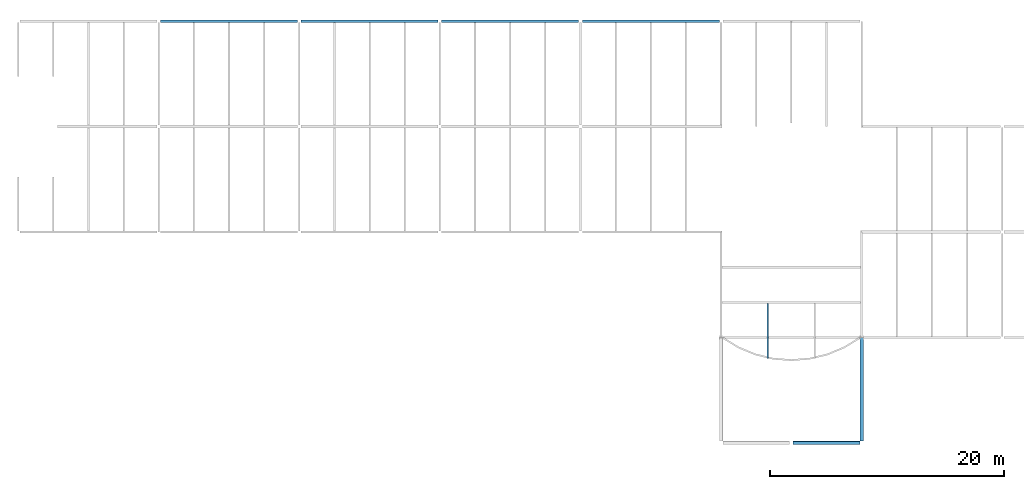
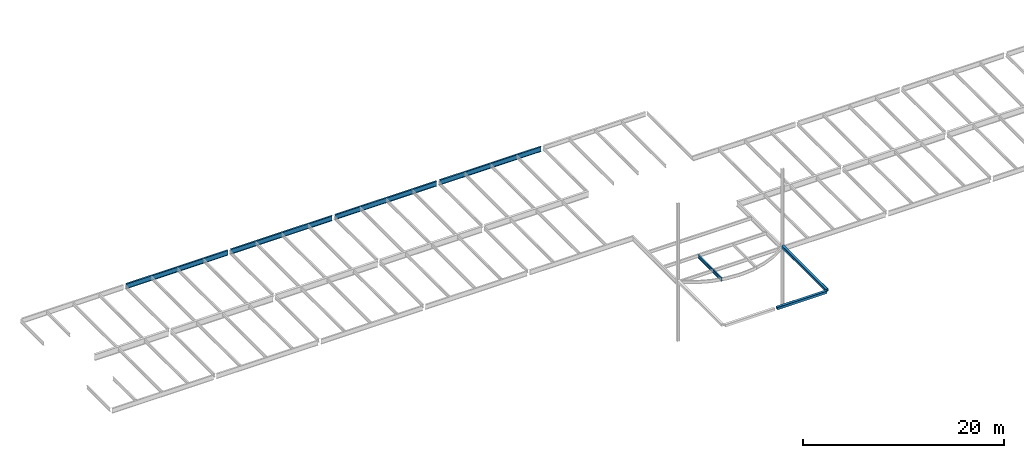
# One storey, part 8 of 21: 7 beams.
"""IFC2X3 building model written with IfcOpenShell, lengths in millimetres."""

from ifc_helpers import new_model, si_unit, origin, place, context, project, spatial, faceted_brep, material, element, save


model = new_model("IFC2X3")

# Units and contexts
context_of_model = context(None, 3, precision=1e-05, world=origin())
ifc_project = project(units=[si_unit("LENGTHUNIT", "METRE", prefix="MILLI")], contexts=[context_of_model])

# Building, storey
building = spatial("IfcBuilding", under=ifc_project, Name="Building", CompositionType="ELEMENT")
storey = spatial("IfcBuildingStorey", under=building, Name="FL6-FRM", CompositionType="ELEMENT")

# Beams
ifc_material_1 = material(Name="A992")
beam_1_placement = place(None, origin())
element("IfcBeam", 1, at=beam_1_placement, inside=storey, material=ifc_material_1, Name="Column435", context=context_of_model, shape_type="Brep", body=[
    faceted_brep([(-47847.0, 35910.5, 21770.0), (-47847.0, 36089.5, 21770.0), (-36153.0, 36089.5, 21770.0), (-36153.0, 35910.5, 21770.0), (-47847.0, 36089.5, 21785.0), (-36153.0, 36089.5, 21785.0), (-47847.0, 36020.6, 21785.0), (-36153.0, 36020.6, 21785.0), (-47847.0, 36016.7, 21785.5), (-36153.0, 36016.7, 21785.5), (-47847.0, 36013.0, 21787.0), (-36153.0, 36013.0, 21787.0), (-47847.0, 36009.9, 21789.5), (-36153.0, 36009.9, 21789.5), (-47847.0, 36007.5, 21792.6), (-36153.0, 36007.5, 21792.6), (-47847.0, 36006.0, 21796.3), (-36153.0, 36006.0, 21796.3), (-47847.0, 36005.4, 21800.2), (-36153.0, 36005.4, 21800.2), (-47847.0, 36005.4, 22342.8), (-36153.0, 36005.4, 22342.8), (-47847.0, 36006.0, 22346.7), (-36153.0, 36006.0, 22346.7), (-47847.0, 36007.5, 22350.4), (-36153.0, 36007.5, 22350.4), (-47847.0, 36009.9, 22353.5), (-36153.0, 36009.9, 22353.5), (-47847.0, 36013.0, 22356.0), (-36153.0, 36013.0, 22356.0), (-47847.0, 36016.7, 22357.5), (-36153.0, 36016.7, 22357.5), (-47847.0, 36020.6, 22358.0), (-36153.0, 36020.6, 22358.0), (-47847.0, 36089.5, 22358.0), (-36153.0, 36089.5, 22358.0), (-47847.0, 36089.5, 22373.0), (-36153.0, 36089.5, 22373.0), (-47847.0, 35910.5, 22373.0), (-36153.0, 35910.5, 22373.0), (-47847.0, 35910.5, 22358.0), (-36153.0, 35910.5, 22358.0), (-47847.0, 35979.4, 22358.0), (-36153.0, 35979.4, 22358.0), (-47847.0, 35983.3, 22357.5), (-36153.0, 35983.3, 22357.5), (-47847.0, 35987.0, 22356.0), (-36153.0, 35987.0, 22356.0), (-47847.0, 35990.1, 22353.5), (-36153.0, 35990.1, 22353.5), (-47847.0, 35992.5, 22350.4), (-36153.0, 35992.5, 22350.4), (-47847.0, 35994.0, 22346.7), (-36153.0, 35994.0, 22346.7), (-47847.0, 35994.6, 22342.8), (-36153.0, 35994.6, 22342.8), (-47847.0, 35994.6, 21800.2), (-36153.0, 35994.6, 21800.2), (-47847.0, 35994.0, 21796.3), (-36153.0, 35994.0, 21796.3), (-47847.0, 35992.5, 21792.6), (-36153.0, 35992.5, 21792.6), (-47847.0, 35990.1, 21789.5), (-36153.0, 35990.1, 21789.5), (-47847.0, 35987.0, 21787.0), (-36153.0, 35987.0, 21787.0), (-47847.0, 35983.3, 21785.5), (-36153.0, 35983.3, 21785.5), (-47847.0, 35979.4, 21785.0), (-36153.0, 35979.4, 21785.0), (-47847.0, 35910.5, 21785.0), (-36153.0, 35910.5, 21785.0)], [[[0, 1, 2, 3]], [[1, 4, 5, 2]], [[4, 6, 7, 5]], [[6, 8, 9, 7]], [[8, 10, 11, 9]], [[10, 12, 13, 11]], [[12, 14, 15, 13]], [[14, 16, 17, 15]], [[16, 18, 19, 17]], [[18, 20, 21, 19]], [[20, 22, 23, 21]], [[22, 24, 25, 23]], [[24, 26, 27, 25]], [[26, 28, 29, 27]], [[28, 30, 31, 29]], [[30, 32, 33, 31]], [[32, 34, 35, 33]], [[34, 36, 37, 35]], [[36, 38, 39, 37]], [[38, 40, 41, 39]], [[40, 42, 43, 41]], [[42, 44, 45, 43]], [[44, 46, 47, 45]], [[46, 48, 49, 47]], [[48, 50, 51, 49]], [[50, 52, 53, 51]], [[52, 54, 55, 53]], [[54, 56, 57, 55]], [[56, 58, 59, 57]], [[58, 60, 61, 59]], [[60, 62, 63, 61]], [[62, 64, 65, 63]], [[64, 66, 67, 65]], [[66, 68, 69, 67]], [[68, 70, 71, 69]], [[70, 0, 3, 71]], [[0, 70, 68, 66, 64, 62, 60, 58, 56, 54, 52, 50, 48, 46, 44, 42, 40, 38, 36, 34, 32, 30, 28, 26, 24, 22, 20, 18, 16, 14, 12, 10, 8, 6, 4, 1]], [[3, 2, 5, 7, 9, 11, 13, 15, 17, 19, 21, 23, 25, 27, 29, 31, 33, 35, 37, 39, 41, 43, 45, 47, 49, 51, 53, 55, 57, 59, 61, 63, 65, 67, 69, 71]]]),
])
ifc_material_2 = material(Name="A992")
beam_2_placement = place(None, origin())
element("IfcBeam", 2, at=beam_2_placement, inside=storey, material=ifc_material_2, Name="Column437", context=context_of_model, shape_type="Brep", body=[
    faceted_brep([(-35847.0, 35910.5, 21770.0), (-35847.0, 36089.5, 21770.0), (-24153.0, 36089.5, 21770.0), (-24153.0, 35910.5, 21770.0), (-35847.0, 36089.5, 21785.0), (-24153.0, 36089.5, 21785.0), (-35847.0, 36020.6, 21785.0), (-24153.0, 36020.6, 21785.0), (-35847.0, 36016.7, 21785.5), (-24153.0, 36016.7, 21785.5), (-35847.0, 36013.0, 21787.0), (-24153.0, 36013.0, 21787.0), (-35847.0, 36009.9, 21789.5), (-24153.0, 36009.9, 21789.5), (-35847.0, 36007.5, 21792.6), (-24153.0, 36007.5, 21792.6), (-35847.0, 36006.0, 21796.3), (-24153.0, 36006.0, 21796.3), (-35847.0, 36005.4, 21800.2), (-24153.0, 36005.4, 21800.2), (-35847.0, 36005.4, 22342.8), (-24153.0, 36005.4, 22342.8), (-35847.0, 36006.0, 22346.7), (-24153.0, 36006.0, 22346.7), (-35847.0, 36007.5, 22350.4), (-24153.0, 36007.5, 22350.4), (-35847.0, 36009.9, 22353.5), (-24153.0, 36009.9, 22353.5), (-35847.0, 36013.0, 22356.0), (-24153.0, 36013.0, 22356.0), (-35847.0, 36016.7, 22357.5), (-24153.0, 36016.7, 22357.5), (-35847.0, 36020.6, 22358.0), (-24153.0, 36020.6, 22358.0), (-35847.0, 36089.5, 22358.0), (-24153.0, 36089.5, 22358.0), (-35847.0, 36089.5, 22373.0), (-24153.0, 36089.5, 22373.0), (-35847.0, 35910.5, 22373.0), (-24153.0, 35910.5, 22373.0), (-35847.0, 35910.5, 22358.0), (-24153.0, 35910.5, 22358.0), (-35847.0, 35979.4, 22358.0), (-24153.0, 35979.4, 22358.0), (-35847.0, 35983.3, 22357.5), (-24153.0, 35983.3, 22357.5), (-35847.0, 35987.0, 22356.0), (-24153.0, 35987.0, 22356.0), (-35847.0, 35990.1, 22353.5), (-24153.0, 35990.1, 22353.5), (-35847.0, 35992.5, 22350.4), (-24153.0, 35992.5, 22350.4), (-35847.0, 35994.0, 22346.7), (-24153.0, 35994.0, 22346.7), (-35847.0, 35994.6, 22342.8), (-24153.0, 35994.6, 22342.8), (-35847.0, 35994.6, 21800.2), (-24153.0, 35994.6, 21800.2), (-35847.0, 35994.0, 21796.3), (-24153.0, 35994.0, 21796.3), (-35847.0, 35992.5, 21792.6), (-24153.0, 35992.5, 21792.6), (-35847.0, 35990.1, 21789.5), (-24153.0, 35990.1, 21789.5), (-35847.0, 35987.0, 21787.0), (-24153.0, 35987.0, 21787.0), (-35847.0, 35983.3, 21785.5), (-24153.0, 35983.3, 21785.5), (-35847.0, 35979.4, 21785.0), (-24153.0, 35979.4, 21785.0), (-35847.0, 35910.5, 21785.0), (-24153.0, 35910.5, 21785.0)], [[[0, 1, 2, 3]], [[1, 4, 5, 2]], [[4, 6, 7, 5]], [[6, 8, 9, 7]], [[8, 10, 11, 9]], [[10, 12, 13, 11]], [[12, 14, 15, 13]], [[14, 16, 17, 15]], [[16, 18, 19, 17]], [[18, 20, 21, 19]], [[20, 22, 23, 21]], [[22, 24, 25, 23]], [[24, 26, 27, 25]], [[26, 28, 29, 27]], [[28, 30, 31, 29]], [[30, 32, 33, 31]], [[32, 34, 35, 33]], [[34, 36, 37, 35]], [[36, 38, 39, 37]], [[38, 40, 41, 39]], [[40, 42, 43, 41]], [[42, 44, 45, 43]], [[44, 46, 47, 45]], [[46, 48, 49, 47]], [[48, 50, 51, 49]], [[50, 52, 53, 51]], [[52, 54, 55, 53]], [[54, 56, 57, 55]], [[56, 58, 59, 57]], [[58, 60, 61, 59]], [[60, 62, 63, 61]], [[62, 64, 65, 63]], [[64, 66, 67, 65]], [[66, 68, 69, 67]], [[68, 70, 71, 69]], [[70, 0, 3, 71]], [[0, 70, 68, 66, 64, 62, 60, 58, 56, 54, 52, 50, 48, 46, 44, 42, 40, 38, 36, 34, 32, 30, 28, 26, 24, 22, 20, 18, 16, 14, 12, 10, 8, 6, 4, 1]], [[3, 2, 5, 7, 9, 11, 13, 15, 17, 19, 21, 23, 25, 27, 29, 31, 33, 35, 37, 39, 41, 43, 45, 47, 49, 51, 53, 55, 57, 59, 61, 63, 65, 67, 69, 71]]]),
])
ifc_material_3 = material(Name="A992")
beam_3_placement = place(None, origin())
element("IfcBeam", 3, at=beam_3_placement, inside=storey, material=ifc_material_3, Name="Column439", context=context_of_model, shape_type="Brep", body=[
    faceted_brep([(-23847.0, 35910.5, 21770.0), (-23847.0, 36089.5, 21770.0), (-12153.0, 36089.5, 21770.0), (-12153.0, 35910.5, 21770.0), (-23847.0, 36089.5, 21785.0), (-12153.0, 36089.5, 21785.0), (-23847.0, 36020.6, 21785.0), (-12153.0, 36020.6, 21785.0), (-23847.0, 36016.7, 21785.5), (-12153.0, 36016.7, 21785.5), (-23847.0, 36013.0, 21787.0), (-12153.0, 36013.0, 21787.0), (-23847.0, 36009.9, 21789.5), (-12153.0, 36009.9, 21789.5), (-23847.0, 36007.5, 21792.6), (-12153.0, 36007.5, 21792.6), (-23847.0, 36006.0, 21796.3), (-12153.0, 36006.0, 21796.3), (-23847.0, 36005.4, 21800.2), (-12153.0, 36005.4, 21800.2), (-23847.0, 36005.4, 22342.8), (-12153.0, 36005.4, 22342.8), (-23847.0, 36006.0, 22346.7), (-12153.0, 36006.0, 22346.7), (-23847.0, 36007.5, 22350.4), (-12153.0, 36007.5, 22350.4), (-23847.0, 36009.9, 22353.5), (-12153.0, 36009.9, 22353.5), (-23847.0, 36013.0, 22356.0), (-12153.0, 36013.0, 22356.0), (-23847.0, 36016.7, 22357.5), (-12153.0, 36016.7, 22357.5), (-23847.0, 36020.6, 22358.0), (-12153.0, 36020.6, 22358.0), (-23847.0, 36089.5, 22358.0), (-12153.0, 36089.5, 22358.0), (-23847.0, 36089.5, 22373.0), (-12153.0, 36089.5, 22373.0), (-23847.0, 35910.5, 22373.0), (-12153.0, 35910.5, 22373.0), (-23847.0, 35910.5, 22358.0), (-12153.0, 35910.5, 22358.0), (-23847.0, 35979.4, 22358.0), (-12153.0, 35979.4, 22358.0), (-23847.0, 35983.3, 22357.5), (-12153.0, 35983.3, 22357.5), (-23847.0, 35987.0, 22356.0), (-12153.0, 35987.0, 22356.0), (-23847.0, 35990.1, 22353.5), (-12153.0, 35990.1, 22353.5), (-23847.0, 35992.5, 22350.4), (-12153.0, 35992.5, 22350.4), (-23847.0, 35994.0, 22346.7), (-12153.0, 35994.0, 22346.7), (-23847.0, 35994.6, 22342.8), (-12153.0, 35994.6, 22342.8), (-23847.0, 35994.6, 21800.2), (-12153.0, 35994.6, 21800.2), (-23847.0, 35994.0, 21796.3), (-12153.0, 35994.0, 21796.3), (-23847.0, 35992.5, 21792.6), (-12153.0, 35992.5, 21792.6), (-23847.0, 35990.1, 21789.5), (-12153.0, 35990.1, 21789.5), (-23847.0, 35987.0, 21787.0), (-12153.0, 35987.0, 21787.0), (-23847.0, 35983.3, 21785.5), (-12153.0, 35983.3, 21785.5), (-23847.0, 35979.4, 21785.0), (-12153.0, 35979.4, 21785.0), (-23847.0, 35910.5, 21785.0), (-12153.0, 35910.5, 21785.0)], [[[0, 1, 2, 3]], [[1, 4, 5, 2]], [[4, 6, 7, 5]], [[6, 8, 9, 7]], [[8, 10, 11, 9]], [[10, 12, 13, 11]], [[12, 14, 15, 13]], [[14, 16, 17, 15]], [[16, 18, 19, 17]], [[18, 20, 21, 19]], [[20, 22, 23, 21]], [[22, 24, 25, 23]], [[24, 26, 27, 25]], [[26, 28, 29, 27]], [[28, 30, 31, 29]], [[30, 32, 33, 31]], [[32, 34, 35, 33]], [[34, 36, 37, 35]], [[36, 38, 39, 37]], [[38, 40, 41, 39]], [[40, 42, 43, 41]], [[42, 44, 45, 43]], [[44, 46, 47, 45]], [[46, 48, 49, 47]], [[48, 50, 51, 49]], [[50, 52, 53, 51]], [[52, 54, 55, 53]], [[54, 56, 57, 55]], [[56, 58, 59, 57]], [[58, 60, 61, 59]], [[60, 62, 63, 61]], [[62, 64, 65, 63]], [[64, 66, 67, 65]], [[66, 68, 69, 67]], [[68, 70, 71, 69]], [[70, 0, 3, 71]], [[0, 70, 68, 66, 64, 62, 60, 58, 56, 54, 52, 50, 48, 46, 44, 42, 40, 38, 36, 34, 32, 30, 28, 26, 24, 22, 20, 18, 16, 14, 12, 10, 8, 6, 4, 1]], [[3, 2, 5, 7, 9, 11, 13, 15, 17, 19, 21, 23, 25, 27, 29, 31, 33, 35, 37, 39, 41, 43, 45, 47, 49, 51, 53, 55, 57, 59, 61, 63, 65, 67, 69, 71]]]),
])
ifc_material_4 = material(Name="A992")
beam_4_placement = place(None, origin())
element("IfcBeam", 4, at=beam_4_placement, inside=storey, material=ifc_material_4, Name="Column441", context=context_of_model, shape_type="Brep", body=[
    faceted_brep([(-11847.0, 35910.5, 21770.0), (-11847.0, 36089.5, 21770.0), (-153.0, 36089.5, 21770.0), (-153.0, 35910.5, 21770.0), (-11847.0, 36089.5, 21785.0), (-153.0, 36089.5, 21785.0), (-11847.0, 36020.6, 21785.0), (-153.0, 36020.6, 21785.0), (-11847.0, 36016.7, 21785.5), (-153.0, 36016.7, 21785.5), (-11847.0, 36013.0, 21787.0), (-153.0, 36013.0, 21787.0), (-11847.0, 36009.9, 21789.5), (-153.0, 36009.9, 21789.5), (-11847.0, 36007.5, 21792.6), (-153.0, 36007.5, 21792.6), (-11847.0, 36006.0, 21796.3), (-153.0, 36006.0, 21796.3), (-11847.0, 36005.4, 21800.2), (-153.0, 36005.4, 21800.2), (-11847.0, 36005.4, 22342.8), (-153.0, 36005.4, 22342.8), (-11847.0, 36006.0, 22346.7), (-153.0, 36006.0, 22346.7), (-11847.0, 36007.5, 22350.4), (-153.0, 36007.5, 22350.4), (-11847.0, 36009.9, 22353.5), (-153.0, 36009.9, 22353.5), (-11847.0, 36013.0, 22356.0), (-153.0, 36013.0, 22356.0), (-11847.0, 36016.7, 22357.5), (-153.0, 36016.7, 22357.5), (-11847.0, 36020.6, 22358.0), (-153.0, 36020.6, 22358.0), (-11847.0, 36089.5, 22358.0), (-153.0, 36089.5, 22358.0), (-11847.0, 36089.5, 22373.0), (-153.0, 36089.5, 22373.0), (-11847.0, 35910.5, 22373.0), (-153.0, 35910.5, 22373.0), (-11847.0, 35910.5, 22358.0), (-153.0, 35910.5, 22358.0), (-11847.0, 35979.4, 22358.0), (-153.0, 35979.4, 22358.0), (-11847.0, 35983.3, 22357.5), (-153.0, 35983.3, 22357.5), (-11847.0, 35987.0, 22356.0), (-153.0, 35987.0, 22356.0), (-11847.0, 35990.1, 22353.5), (-153.0, 35990.1, 22353.5), (-11847.0, 35992.5, 22350.4), (-153.0, 35992.5, 22350.4), (-11847.0, 35994.0, 22346.7), (-153.0, 35994.0, 22346.7), (-11847.0, 35994.6, 22342.8), (-153.0, 35994.6, 22342.8), (-11847.0, 35994.6, 21800.2), (-153.0, 35994.6, 21800.2), (-11847.0, 35994.0, 21796.3), (-153.0, 35994.0, 21796.3), (-11847.0, 35992.5, 21792.6), (-153.0, 35992.5, 21792.6), (-11847.0, 35990.1, 21789.5), (-153.0, 35990.1, 21789.5), (-11847.0, 35987.0, 21787.0), (-153.0, 35987.0, 21787.0), (-11847.0, 35983.3, 21785.5), (-153.0, 35983.3, 21785.5), (-11847.0, 35979.4, 21785.0), (-153.0, 35979.4, 21785.0), (-11847.0, 35910.5, 21785.0), (-153.0, 35910.5, 21785.0)], [[[0, 1, 2, 3]], [[1, 4, 5, 2]], [[4, 6, 7, 5]], [[6, 8, 9, 7]], [[8, 10, 11, 9]], [[10, 12, 13, 11]], [[12, 14, 15, 13]], [[14, 16, 17, 15]], [[16, 18, 19, 17]], [[18, 20, 21, 19]], [[20, 22, 23, 21]], [[22, 24, 25, 23]], [[24, 26, 27, 25]], [[26, 28, 29, 27]], [[28, 30, 31, 29]], [[30, 32, 33, 31]], [[32, 34, 35, 33]], [[34, 36, 37, 35]], [[36, 38, 39, 37]], [[38, 40, 41, 39]], [[40, 42, 43, 41]], [[42, 44, 45, 43]], [[44, 46, 47, 45]], [[46, 48, 49, 47]], [[48, 50, 51, 49]], [[50, 52, 53, 51]], [[52, 54, 55, 53]], [[54, 56, 57, 55]], [[56, 58, 59, 57]], [[58, 60, 61, 59]], [[60, 62, 63, 61]], [[62, 64, 65, 63]], [[64, 66, 67, 65]], [[66, 68, 69, 67]], [[68, 70, 71, 69]], [[70, 0, 3, 71]], [[0, 70, 68, 66, 64, 62, 60, 58, 56, 54, 52, 50, 48, 46, 44, 42, 40, 38, 36, 34, 32, 30, 28, 26, 24, 22, 20, 18, 16, 14, 12, 10, 8, 6, 4, 1]], [[3, 2, 5, 7, 9, 11, 13, 15, 17, 19, 21, 23, 25, 27, 29, 31, 33, 35, 37, 39, 41, 43, 45, 47, 49, 51, 53, 55, 57, 59, 61, 63, 65, 67, 69, 71]]]),
])
ifc_material_5 = material(Name="A500 grade B")
beam_5_placement = place(None, origin())
element("IfcBeam", 5, at=beam_5_placement, inside=storey, material=ifc_material_5, Name="B1224", context=context_of_model, shape_type="Brep", body=[
    faceted_brep([(12000.0, 8995.05, 22195.0), (12133.5, 8995.05, 22195.0), (12133.5, 152.5, 22195.0), (12000.0, 152.5, 22195.0), (12138.4, 8995.05, 22195.6), (12138.4, 152.5, 22195.6), (12143.0, 8995.05, 22197.5), (12143.0, 152.5, 22197.5), (12146.9, 8995.05, 22200.6), (12146.9, 152.5, 22200.6), (12150.0, 8995.05, 22204.5), (12150.0, 152.5, 22204.5), (12151.9, 8995.05, 22209.1), (12151.9, 152.5, 22209.1), (12152.5, 8995.05, 22214.0), (12152.5, 152.5, 22214.0), (12152.5, 8995.05, 22481.0), (12152.5, 152.5, 22481.0), (12151.9, 8995.05, 22485.9), (12151.9, 152.5, 22485.9), (12150.0, 8995.05, 22490.5), (12150.0, 152.5, 22490.5), (12146.9, 8995.05, 22494.4), (12146.9, 152.5, 22494.4), (12143.0, 8995.05, 22497.5), (12143.0, 152.5, 22497.5), (12138.4, 8995.05, 22499.4), (12138.4, 152.5, 22499.4), (12133.5, 8995.05, 22500.0), (12133.5, 152.5, 22500.0), (11866.5, 8995.05, 22500.0), (11866.5, 152.5, 22500.0), (11861.6, 8995.05, 22499.4), (11861.6, 152.5, 22499.4), (11857.0, 8995.05, 22497.5), (11857.0, 152.5, 22497.5), (11853.1, 8995.05, 22494.4), (11853.1, 152.5, 22494.4), (11850.0, 8995.05, 22490.5), (11850.0, 152.5, 22490.5), (11848.1, 8995.05, 22485.9), (11848.1, 152.5, 22485.9), (11847.5, 8995.05, 22481.0), (11847.5, 152.5, 22481.0), (11847.5, 8995.05, 22214.0), (11847.5, 152.5, 22214.0), (11848.1, 8995.05, 22209.1), (11848.1, 152.5, 22209.1), (11850.0, 8995.05, 22204.5), (11850.0, 152.5, 22204.5), (11853.1, 8995.05, 22200.6), (11853.1, 152.5, 22200.6), (11857.0, 8995.05, 22197.5), (11857.0, 152.5, 22197.5), (11861.6, 8995.05, 22195.6), (11861.6, 152.5, 22195.6), (11866.5, 8995.05, 22195.0), (11866.5, 152.5, 22195.0), (12000.0, 8995.05, 22204.5), (11866.5, 8995.05, 22204.5), (11866.5, 152.5, 22204.5), (12000.0, 152.5, 22204.5), (11864.0, 8995.05, 22204.8), (11864.0, 152.5, 22204.8), (11861.7, 8995.05, 22205.8), (11861.7, 152.5, 22205.8), (11859.8, 8995.05, 22207.3), (11859.8, 152.5, 22207.3), (11858.3, 8995.05, 22209.3), (11858.3, 152.5, 22209.3), (11857.3, 8995.05, 22211.5), (11857.3, 152.5, 22211.5), (11857.0, 8995.05, 22214.0), (11857.0, 152.5, 22214.0), (11857.0, 8995.05, 22481.0), (11857.0, 152.5, 22481.0), (11857.3, 8995.05, 22483.5), (11857.3, 152.5, 22483.5), (11858.3, 8995.05, 22485.8), (11858.3, 152.5, 22485.8), (11859.8, 8995.05, 22487.7), (11859.8, 152.5, 22487.7), (11861.7, 8995.05, 22489.2), (11861.7, 152.5, 22489.2), (11864.0, 8995.05, 22490.2), (11864.0, 152.5, 22490.2), (11866.5, 8995.05, 22490.5), (11866.5, 152.5, 22490.5), (12133.5, 8995.05, 22490.5), (12133.5, 152.5, 22490.5), (12136.0, 8995.05, 22490.2), (12136.0, 152.5, 22490.2), (12138.2, 8995.05, 22489.2), (12138.2, 152.5, 22489.2), (12140.2, 8995.05, 22487.7), (12140.2, 152.5, 22487.7), (12141.7, 8995.05, 22485.8), (12141.7, 152.5, 22485.8), (12142.7, 8995.05, 22483.5), (12142.7, 152.5, 22483.5), (12143.0, 8995.05, 22481.0), (12143.0, 152.5, 22481.0), (12143.0, 8995.05, 22214.0), (12143.0, 152.5, 22214.0), (12142.7, 8995.05, 22211.5), (12142.7, 152.5, 22211.5), (12141.7, 8995.05, 22209.3), (12141.7, 152.5, 22209.3), (12140.2, 8995.05, 22207.3), (12140.2, 152.5, 22207.3), (12138.2, 8995.05, 22205.8), (12138.3, 152.5, 22205.8), (12136.0, 8995.05, 22204.8), (12136.0, 152.5, 22204.8), (12133.5, 8995.05, 22204.5), (12133.5, 152.5, 22204.5)], [[[0, 1, 2, 3]], [[1, 4, 5, 2]], [[4, 6, 7, 5]], [[6, 8, 9, 7]], [[8, 10, 11, 9]], [[10, 12, 13, 11]], [[12, 14, 15, 13]], [[14, 16, 17, 15]], [[16, 18, 19, 17]], [[18, 20, 21, 19]], [[20, 22, 23, 21]], [[22, 24, 25, 23]], [[24, 26, 27, 25]], [[26, 28, 29, 27]], [[28, 30, 31, 29]], [[30, 32, 33, 31]], [[32, 34, 35, 33]], [[34, 36, 37, 35]], [[36, 38, 39, 37]], [[38, 40, 41, 39]], [[40, 42, 43, 41]], [[42, 44, 45, 43]], [[44, 46, 47, 45]], [[46, 48, 49, 47]], [[48, 50, 51, 49]], [[50, 52, 53, 51]], [[52, 54, 55, 53]], [[54, 56, 57, 55]], [[56, 0, 3, 57]], [[58, 59, 60, 61]], [[59, 62, 63, 60]], [[62, 64, 65, 63]], [[64, 66, 67, 65]], [[66, 68, 69, 67]], [[68, 70, 71, 69]], [[70, 72, 73, 71]], [[72, 74, 75, 73]], [[74, 76, 77, 75]], [[76, 78, 79, 77]], [[78, 80, 81, 79]], [[80, 82, 83, 81]], [[82, 84, 85, 83]], [[84, 86, 87, 85]], [[86, 88, 89, 87]], [[88, 90, 91, 89]], [[90, 92, 93, 91]], [[92, 94, 95, 93]], [[94, 96, 97, 95]], [[96, 98, 99, 97]], [[98, 100, 101, 99]], [[100, 102, 103, 101]], [[102, 104, 105, 103]], [[104, 106, 107, 105]], [[106, 108, 109, 107]], [[108, 110, 111, 109]], [[110, 112, 113, 111]], [[112, 114, 115, 113]], [[114, 58, 61, 115]], [[0, 56, 54, 52, 50, 48, 46, 44, 42, 40, 38, 36, 34, 32, 30, 28, 26, 24, 22, 20, 18, 16, 14, 12, 10, 8, 6, 4, 1], [58, 114, 112, 110, 108, 106, 104, 102, 100, 98, 96, 94, 92, 90, 88, 86, 84, 82, 80, 78, 76, 74, 72, 70, 68, 66, 64, 62, 59]], [[3, 2, 5, 7, 9, 11, 13, 15, 17, 19, 21, 23, 25, 27, 29, 31, 33, 35, 37, 39, 41, 43, 45, 47, 49, 51, 53, 55, 57], [61, 60, 63, 65, 67, 69, 71, 73, 75, 77, 79, 81, 83, 85, 87, 89, 91, 93, 95, 97, 99, 101, 103, 105, 107, 109, 111, 113, 115]]]),
])
ifc_material_6 = material(Name="A500 grade B")
beam_6_placement = place(None, origin())
element("IfcBeam", 6, at=beam_6_placement, inside=storey, material=ifc_material_6, Name="B1225", context=context_of_model, shape_type="Brep", body=[
    faceted_brep([(11847.5, 1.94289e-12, 22195.0), (11847.5, -133.5, 22195.0), (6152.5, -133.5, 22195.0), (6152.5, 1.94289e-12, 22195.0), (11847.5, -138.418, 22195.6), (6152.5, -138.418, 22195.6), (11847.5, -143.0, 22197.5), (6152.5, -143.0, 22197.5), (11847.5, -146.935, 22200.6), (6152.5, -146.935, 22200.6), (11847.5, -149.954, 22204.5), (6152.5, -149.954, 22204.5), (11847.5, -151.853, 22209.1), (6152.5, -151.853, 22209.1), (11847.5, -152.5, 22214.0), (6152.5, -152.5, 22214.0), (11847.5, -152.5, 22481.0), (6152.5, -152.5, 22481.0), (11847.5, -151.853, 22485.9), (6152.5, -151.853, 22485.9), (11847.5, -149.954, 22490.5), (6152.5, -149.954, 22490.5), (11847.5, -146.935, 22494.4), (6152.5, -146.935, 22494.4), (11847.5, -143.0, 22497.5), (6152.5, -143.0, 22497.5), (11847.5, -138.418, 22499.4), (6152.5, -138.418, 22499.4), (11847.5, -133.5, 22500.0), (6152.5, -133.5, 22500.0), (11847.5, 133.5, 22500.0), (6152.5, 133.5, 22500.0), (11847.5, 138.418, 22499.4), (6152.5, 138.418, 22499.4), (11847.5, 143.0, 22497.5), (6152.5, 143.0, 22497.5), (11847.5, 146.935, 22494.4), (6152.5, 146.935, 22494.4), (11847.5, 149.954, 22490.5), (6152.5, 149.954, 22490.5), (11847.5, 151.853, 22485.9), (6152.5, 151.853, 22485.9), (11847.5, 152.5, 22481.0), (6152.5, 152.5, 22481.0), (11847.5, 152.5, 22214.0), (6152.5, 152.5, 22214.0), (11847.5, 151.853, 22209.1), (6152.5, 151.853, 22209.1), (11847.5, 149.954, 22204.5), (6152.5, 149.954, 22204.5), (11847.5, 146.935, 22200.6), (6152.5, 146.935, 22200.6), (11847.5, 143.0, 22197.5), (6152.5, 143.0, 22197.5), (11847.5, 138.418, 22195.6), (6152.5, 138.418, 22195.6), (11847.5, 133.5, 22195.0), (6152.5, 133.5, 22195.0), (11847.5, 1.94289e-12, 22204.5), (11847.5, 133.5, 22204.5), (6152.5, 133.5, 22204.5), (6152.5, 1.94289e-12, 22204.5), (11847.5, 135.959, 22204.8), (6152.5, 135.959, 22204.8), (11847.5, 138.25, 22205.8), (6152.5, 138.25, 22205.8), (11847.5, 140.218, 22207.3), (6152.5, 140.218, 22207.3), (11847.5, 141.727, 22209.3), (6152.5, 141.727, 22209.3), (11847.5, 142.676, 22211.5), (6152.5, 142.676, 22211.5), (11847.5, 143.0, 22214.0), (6152.5, 143.0, 22214.0), (11847.5, 143.0, 22481.0), (6152.5, 143.0, 22481.0), (11847.5, 142.676, 22483.5), (6152.5, 142.676, 22483.5), (11847.5, 141.727, 22485.8), (6152.5, 141.727, 22485.8), (11847.5, 140.218, 22487.7), (6152.5, 140.218, 22487.7), (11847.5, 138.25, 22489.2), (6152.5, 138.25, 22489.2), (11847.5, 135.959, 22490.2), (6152.5, 135.959, 22490.2), (11847.5, 133.5, 22490.5), (6152.5, 133.5, 22490.5), (11847.5, -133.5, 22490.5), (6152.5, -133.5, 22490.5), (11847.5, -135.959, 22490.2), (6152.5, -135.959, 22490.2), (11847.5, -138.25, 22489.2), (6152.5, -138.25, 22489.2), (11847.5, -140.218, 22487.7), (6152.5, -140.218, 22487.7), (11847.5, -141.727, 22485.8), (6152.5, -141.727, 22485.8), (11847.5, -142.676, 22483.5), (6152.5, -142.676, 22483.5), (11847.5, -143.0, 22481.0), (6152.5, -143.0, 22481.0), (11847.5, -143.0, 22214.0), (6152.5, -143.0, 22214.0), (11847.5, -142.676, 22211.5), (6152.5, -142.676, 22211.5), (11847.5, -141.727, 22209.3), (6152.5, -141.727, 22209.3), (11847.5, -140.218, 22207.3), (6152.5, -140.218, 22207.3), (11847.5, -138.25, 22205.8), (6152.5, -138.25, 22205.8), (11847.5, -135.959, 22204.8), (6152.5, -135.959, 22204.8), (11847.5, -133.5, 22204.5), (6152.5, -133.5, 22204.5)], [[[0, 1, 2, 3]], [[1, 4, 5, 2]], [[4, 6, 7, 5]], [[6, 8, 9, 7]], [[8, 10, 11, 9]], [[10, 12, 13, 11]], [[12, 14, 15, 13]], [[14, 16, 17, 15]], [[16, 18, 19, 17]], [[18, 20, 21, 19]], [[20, 22, 23, 21]], [[22, 24, 25, 23]], [[24, 26, 27, 25]], [[26, 28, 29, 27]], [[28, 30, 31, 29]], [[30, 32, 33, 31]], [[32, 34, 35, 33]], [[34, 36, 37, 35]], [[36, 38, 39, 37]], [[38, 40, 41, 39]], [[40, 42, 43, 41]], [[42, 44, 45, 43]], [[44, 46, 47, 45]], [[46, 48, 49, 47]], [[48, 50, 51, 49]], [[50, 52, 53, 51]], [[52, 54, 55, 53]], [[54, 56, 57, 55]], [[56, 0, 3, 57]], [[58, 59, 60, 61]], [[59, 62, 63, 60]], [[62, 64, 65, 63]], [[64, 66, 67, 65]], [[66, 68, 69, 67]], [[68, 70, 71, 69]], [[70, 72, 73, 71]], [[72, 74, 75, 73]], [[74, 76, 77, 75]], [[76, 78, 79, 77]], [[78, 80, 81, 79]], [[80, 82, 83, 81]], [[82, 84, 85, 83]], [[84, 86, 87, 85]], [[86, 88, 89, 87]], [[88, 90, 91, 89]], [[90, 92, 93, 91]], [[92, 94, 95, 93]], [[94, 96, 97, 95]], [[96, 98, 99, 97]], [[98, 100, 101, 99]], [[100, 102, 103, 101]], [[102, 104, 105, 103]], [[104, 106, 107, 105]], [[106, 108, 109, 107]], [[108, 110, 111, 109]], [[110, 112, 113, 111]], [[112, 114, 115, 113]], [[114, 58, 61, 115]], [[0, 56, 54, 52, 50, 48, 46, 44, 42, 40, 38, 36, 34, 32, 30, 28, 26, 24, 22, 20, 18, 16, 14, 12, 10, 8, 6, 4, 1], [58, 114, 112, 110, 108, 106, 104, 102, 100, 98, 96, 94, 92, 90, 88, 86, 84, 82, 80, 78, 76, 74, 72, 70, 68, 66, 64, 62, 59]], [[3, 2, 5, 7, 9, 11, 13, 15, 17, 19, 21, 23, 25, 27, 29, 31, 33, 35, 37, 39, 41, 43, 45, 47, 49, 51, 53, 55, 57], [61, 60, 63, 65, 67, 69, 71, 73, 75, 77, 79, 81, 83, 85, 87, 89, 91, 93, 95, 97, 99, 101, 103, 105, 107, 109, 111, 113, 115]]]),
])
ifc_material_7 = material(Name="A992")
beam_7_placement = place(None, origin())
element("IfcBeam", 7, at=beam_7_placement, inside=storey, material=ifc_material_7, Name="B1247", context=context_of_model, shape_type="Brep", body=[
    faceted_brep([(3930.0, 11911.0, 21974.0), (4070.0, 11911.0, 21974.0), (4070.0, 7202.04, 21974.0), (3930.0, 7202.04, 21974.0), (4070.0, 11911.0, 21982.8), (4070.0, 7202.04, 21982.8), (4013.4, 11911.0, 21982.8), (4013.4, 7202.04, 21982.8), (4010.76, 11911.0, 21983.1), (4010.76, 7202.04, 21983.1), (4008.3, 11911.0, 21984.2), (4008.3, 7202.04, 21984.2), (4006.19, 11911.0, 21985.8), (4006.19, 7202.04, 21985.8), (4004.57, 11911.0, 21987.9), (4004.57, 7202.04, 21987.9), (4003.55, 11911.0, 21990.4), (4003.55, 7202.04, 21990.4), (4003.2, 11911.0, 21993.0), (4003.2, 7202.04, 21993.0), (4003.2, 11911.0, 22354.0), (4003.2, 7202.04, 22354.0), (4003.55, 11911.0, 22356.6), (4003.55, 7202.04, 22356.6), (4004.57, 11911.0, 22359.1), (4004.57, 7202.04, 22359.1), (4006.19, 11911.0, 22361.2), (4006.19, 7202.04, 22361.2), (4008.3, 11911.0, 22362.8), (4008.3, 7202.04, 22362.8), (4010.76, 11911.0, 22363.9), (4010.76, 7202.04, 22363.9), (4013.4, 11911.0, 22364.2), (4013.4, 7202.04, 22364.2), (4070.0, 11911.0, 22364.2), (4070.0, 7202.04, 22364.2), (4070.0, 11911.0, 22373.0), (4070.0, 7202.04, 22373.0), (3930.0, 11911.0, 22373.0), (3930.0, 7202.04, 22373.0), (3930.0, 11911.0, 22364.2), (3930.0, 7202.04, 22364.2), (3986.6, 11911.0, 22364.2), (3986.6, 7202.04, 22364.2), (3989.24, 11911.0, 22363.9), (3989.24, 7202.04, 22363.9), (3991.7, 11911.0, 22362.8), (3991.7, 7202.04, 22362.8), (3993.81, 11911.0, 22361.2), (3993.81, 7202.04, 22361.2), (3995.43, 11911.0, 22359.1), (3995.43, 7202.04, 22359.1), (3996.45, 11911.0, 22356.6), (3996.45, 7202.04, 22356.6), (3996.8, 11911.0, 22354.0), (3996.8, 7202.04, 22354.0), (3996.8, 11911.0, 21993.0), (3996.8, 7202.04, 21993.0), (3996.45, 11911.0, 21990.4), (3996.45, 7202.04, 21990.4), (3995.43, 11911.0, 21987.9), (3995.43, 7202.04, 21987.9), (3993.81, 11911.0, 21985.8), (3993.81, 7202.04, 21985.8), (3991.7, 11911.0, 21984.2), (3991.7, 7202.04, 21984.2), (3989.24, 11911.0, 21983.1), (3989.24, 7202.04, 21983.1), (3986.6, 11911.0, 21982.8), (3986.6, 7202.04, 21982.8), (3930.0, 11911.0, 21982.8), (3930.0, 7202.04, 21982.8)], [[[0, 1, 2, 3]], [[1, 4, 5, 2]], [[4, 6, 7, 5]], [[6, 8, 9, 7]], [[8, 10, 11, 9]], [[10, 12, 13, 11]], [[12, 14, 15, 13]], [[14, 16, 17, 15]], [[16, 18, 19, 17]], [[18, 20, 21, 19]], [[20, 22, 23, 21]], [[22, 24, 25, 23]], [[24, 26, 27, 25]], [[26, 28, 29, 27]], [[28, 30, 31, 29]], [[30, 32, 33, 31]], [[32, 34, 35, 33]], [[34, 36, 37, 35]], [[36, 38, 39, 37]], [[38, 40, 41, 39]], [[40, 42, 43, 41]], [[42, 44, 45, 43]], [[44, 46, 47, 45]], [[46, 48, 49, 47]], [[48, 50, 51, 49]], [[50, 52, 53, 51]], [[52, 54, 55, 53]], [[54, 56, 57, 55]], [[56, 58, 59, 57]], [[58, 60, 61, 59]], [[60, 62, 63, 61]], [[62, 64, 65, 63]], [[64, 66, 67, 65]], [[66, 68, 69, 67]], [[68, 70, 71, 69]], [[70, 0, 3, 71]], [[0, 70, 68, 66, 64, 62, 60, 58, 56, 54, 52, 50, 48, 46, 44, 42, 40, 38, 36, 34, 32, 30, 28, 26, 24, 22, 20, 18, 16, 14, 12, 10, 8, 6, 4, 1]], [[3, 2, 5, 7, 9, 11, 13, 15, 17, 19, 21, 23, 25, 27, 29, 31, 33, 35, 37, 39, 41, 43, 45, 47, 49, 51, 53, 55, 57, 59, 61, 63, 65, 67, 69, 71]]]),
])

save(model, "model.ifc")
